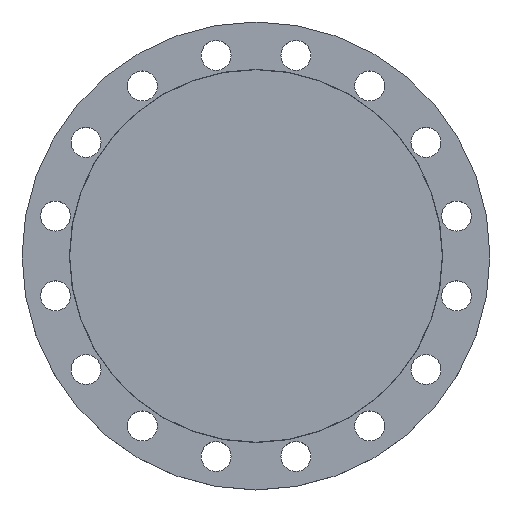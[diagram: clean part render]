
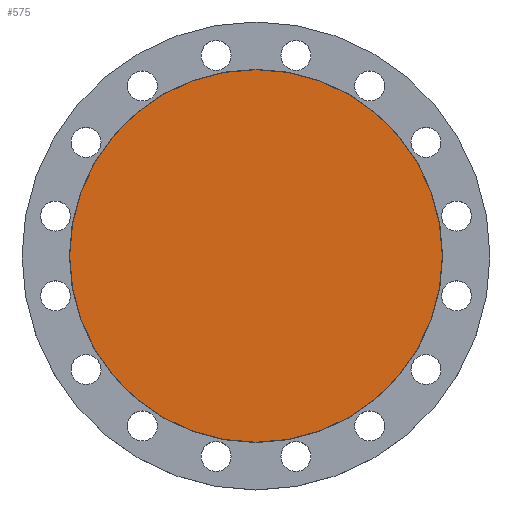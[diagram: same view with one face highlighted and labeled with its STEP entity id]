
A CAD part, top view. The second image highlights one B-rep face of the part: STEP entity #575.
In plain terms, the highlighted planar face has unit normal (0, 0, 1).
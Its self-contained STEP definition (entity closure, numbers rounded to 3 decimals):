
#117 = DIRECTION ( 'NONE',  ( 1., 0., 0. ) ) ;
#118 = DIRECTION ( 'NONE',  ( 0., 0., 1. ) ) ;
#119 = CARTESIAN_POINT ( 'NONE',  ( 0., 0., 0. ) ) ;
#120 = PLANE ( 'NONE',  #899 ) ;
#121 = FACE_OUTER_BOUND ( 'NONE', #304, .T. ) ;
#170 = AXIS2_PLACEMENT_3D ( 'NONE', #617, #612, #609 ) ;
#223 = CARTESIAN_POINT ( 'NONE',  ( 205., 0., 0. ) ) ;
#238 = CARTESIAN_POINT ( 'NONE',  ( -205., 0., 0. ) ) ;
#248 = CIRCLE ( 'NONE', #170, 205. ) ;
#283 = VERTEX_POINT ( 'NONE', #238 ) ;
#301 = VERTEX_POINT ( 'NONE', #223 ) ;
#304 = EDGE_LOOP ( 'NONE', ( #463, #464 ) ) ;
#424 = DIRECTION ( 'NONE',  ( -1., 0., 0. ) ) ;
#429 = DIRECTION ( 'NONE',  ( 0., 0., -1. ) ) ;
#434 = CARTESIAN_POINT ( 'NONE',  ( 0., 0., 0. ) ) ;
#463 = ORIENTED_EDGE ( 'NONE', *, *, #1289, .F. ) ;
#464 = ORIENTED_EDGE ( 'NONE', *, *, #1355, .F. ) ;
#562 = AXIS2_PLACEMENT_3D ( 'NONE', #434, #429, #424 ) ;
#575 = ADVANCED_FACE ( 'NONE', ( #121 ), #120, .T. ) ;
#609 = DIRECTION ( 'NONE',  ( -1., 0., 0. ) ) ;
#612 = DIRECTION ( 'NONE',  ( 0., 0., -1. ) ) ;
#617 = CARTESIAN_POINT ( 'NONE',  ( 0., 0., 0. ) ) ;
#899 = AXIS2_PLACEMENT_3D ( 'NONE', #119, #118, #117 ) ;
#1246 = CIRCLE ( 'NONE', #562, 205. ) ;
#1289 = EDGE_CURVE ( 'NONE', #283, #301, #248, .T. ) ;
#1355 = EDGE_CURVE ( 'NONE', #301, #283, #1246, .T. ) ;
